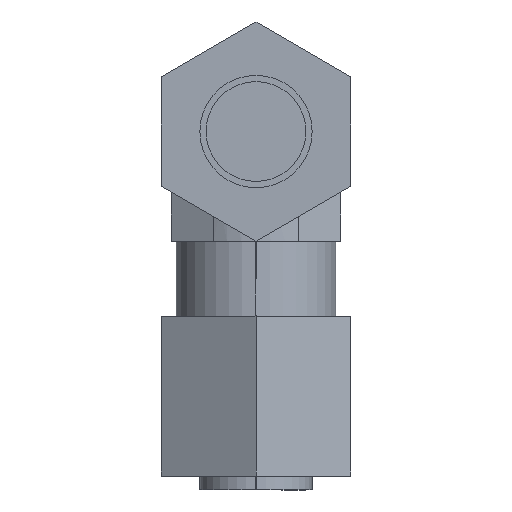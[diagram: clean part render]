
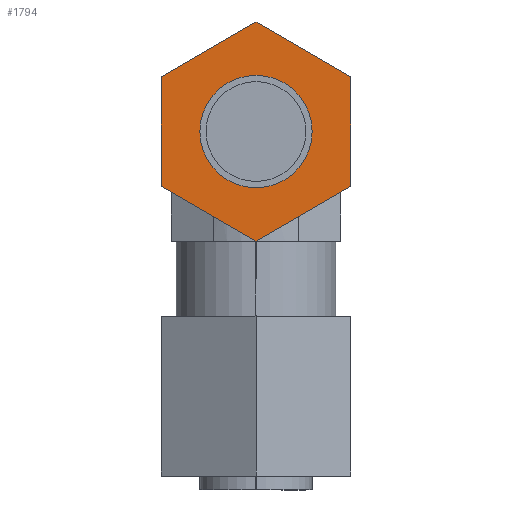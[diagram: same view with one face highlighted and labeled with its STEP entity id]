
A CAD part, left-side view. The second image highlights one B-rep face of the part: STEP entity #1794.
In plain terms, the highlighted planar face has unit normal (1, 0, 0).
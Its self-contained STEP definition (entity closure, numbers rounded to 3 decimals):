
#15=FACE_BOUND('',#232,.T.);
#27=PLANE('',#2038);
#161=FACE_OUTER_BOUND('',#231,.T.);
#231=EDGE_LOOP('',(#1494,#1495,#1496,#1497,#1498,#1499));
#232=EDGE_LOOP('',(#1500));
#322=CIRCLE('',#2039,5.625);
#392=LINE('',#2818,#624);
#393=LINE('',#2820,#625);
#394=LINE('',#2822,#626);
#395=LINE('',#2824,#627);
#396=LINE('',#2826,#628);
#397=LINE('',#2827,#629);
#624=VECTOR('',#2236,10.97);
#625=VECTOR('',#2237,10.97);
#626=VECTOR('',#2238,10.97);
#627=VECTOR('',#2239,10.97);
#628=VECTOR('',#2240,10.97);
#629=VECTOR('',#2241,10.97);
#878=VERTEX_POINT('',#2816);
#879=VERTEX_POINT('',#2817);
#880=VERTEX_POINT('',#2819);
#881=VERTEX_POINT('',#2821);
#882=VERTEX_POINT('',#2823);
#883=VERTEX_POINT('',#2825);
#884=VERTEX_POINT('',#2828);
#1186=EDGE_CURVE('',#878,#879,#392,.T.);
#1187=EDGE_CURVE('',#879,#880,#393,.T.);
#1188=EDGE_CURVE('',#880,#881,#394,.T.);
#1189=EDGE_CURVE('',#881,#882,#395,.T.);
#1190=EDGE_CURVE('',#882,#883,#396,.T.);
#1191=EDGE_CURVE('',#883,#878,#397,.T.);
#1192=EDGE_CURVE('',#884,#884,#322,.T.);
#1494=ORIENTED_EDGE('',*,*,#1186,.T.);
#1495=ORIENTED_EDGE('',*,*,#1187,.T.);
#1496=ORIENTED_EDGE('',*,*,#1188,.T.);
#1497=ORIENTED_EDGE('',*,*,#1189,.T.);
#1498=ORIENTED_EDGE('',*,*,#1190,.T.);
#1499=ORIENTED_EDGE('',*,*,#1191,.T.);
#1500=ORIENTED_EDGE('',*,*,#1192,.T.);
#1794=ADVANCED_FACE('',(#161,#15),#27,.T.);
#2038=AXIS2_PLACEMENT_3D('',#2815,#2234,#2235);
#2039=AXIS2_PLACEMENT_3D('',#2829,#2242,#2243);
#2234=DIRECTION('center_axis',(1.,0.,0.));
#2235=DIRECTION('ref_axis',(0.,0.,-1.));
#2236=DIRECTION('',(0.,0.866,-0.5));
#2237=DIRECTION('',(0.,0.866,0.5));
#2238=DIRECTION('',(0.,0.,1.));
#2239=DIRECTION('',(0.,-0.866,0.5));
#2240=DIRECTION('',(0.,-0.866,-0.5));
#2241=DIRECTION('',(0.,0.,-1.));
#2242=DIRECTION('center_axis',(-1.,0.,0.));
#2243=DIRECTION('ref_axis',(0.,0.,1.));
#2815=CARTESIAN_POINT('Origin',(-34.5,-9.5,0.));
#2816=CARTESIAN_POINT('',(-34.5,-9.5,-5.485));
#2817=CARTESIAN_POINT('',(-34.5,0.,-10.97));
#2818=CARTESIAN_POINT('',(-34.5,-9.5,-5.485));
#2819=CARTESIAN_POINT('',(-34.5,9.5,-5.485));
#2820=CARTESIAN_POINT('',(-34.5,0.,-10.97));
#2821=CARTESIAN_POINT('',(-34.5,9.5,5.485));
#2822=CARTESIAN_POINT('',(-34.5,9.5,-5.485));
#2823=CARTESIAN_POINT('',(-34.5,0.,10.97));
#2824=CARTESIAN_POINT('',(-34.5,9.5,5.485));
#2825=CARTESIAN_POINT('',(-34.5,-9.5,5.485));
#2826=CARTESIAN_POINT('',(-34.5,0.,10.97));
#2827=CARTESIAN_POINT('',(-34.5,-9.5,5.485));
#2828=CARTESIAN_POINT('',(-34.5,0.,-5.625));
#2829=CARTESIAN_POINT('Origin',(-34.5,0.,0.));
